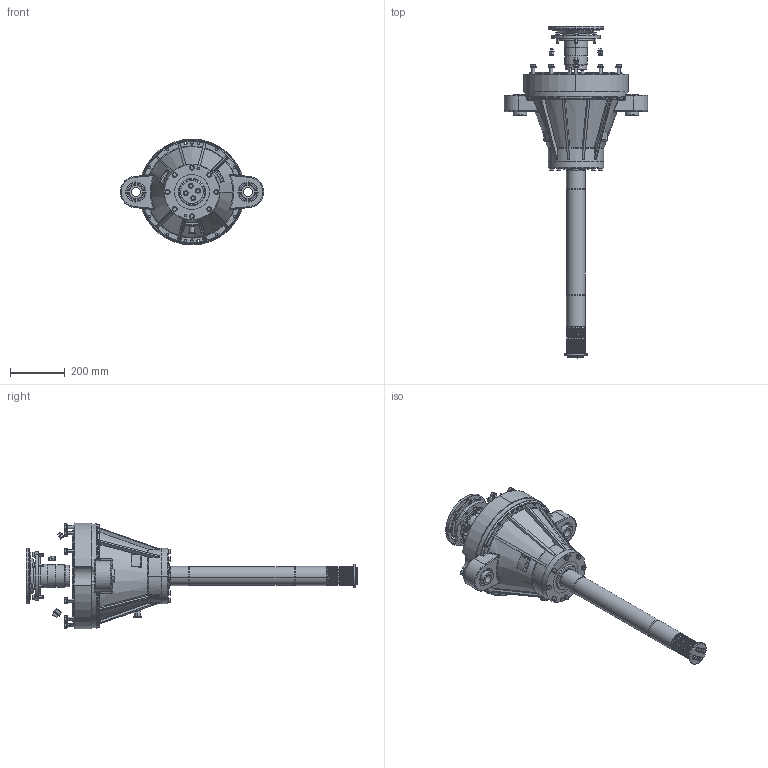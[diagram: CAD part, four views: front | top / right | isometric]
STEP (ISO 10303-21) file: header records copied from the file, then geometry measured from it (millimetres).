
FILE_DESCRIPTION (( 'STEP AP214' ), '1' );
FILE_NAME ('D104E500001.STEP', '2017-05-09T14:22:09', ( 'MikeMihajlovic' ), ( 'Microsoft' ), 'SwSTEP 2.0', 'SolidWorks 2016', '' );
FILE_SCHEMA (( 'AUTOMOTIVE_DESIGN' ));
Length unit declared in the file: inch
Products named in the file (34): D104021_ASM_1; AV313650_19; D104024; D104014__ASM_2; D104020_ASM; D104014C_AF0_2; D104001C_AF0_2; D104014B_AF0_2; D104020_ASM_1; D104014A_AF0_2; D104016_2; D104E500001; OS3_938-45_1; OR2_734X_139_3; D104015; DWL_38X1_2; SRN5000-275_3; HHCSZ_38-16X1_25_21; D104010_2; HHCSZ_43-14X4_50; D104013_2; LWZ_43; SRN5000-300_3; HHCSZ_38-16X1_50_6; D104008_2; HHCSZ_38-24X1_00; D104009_2; LWZ_38_39; D104007; PPSQG_375-18_6; D104021_ASM; PPSQM_375-18_4; D104002C_AF0_2; PPSQG_750-14_3
Assembly tree (89 placements, depth 3):
  D104E500001
    D104020_ASM
      D104020_ASM_1
      D104001C_AF0_2
    D104024
    D104021_ASM
      D104021_ASM_1
      D104002C_AF0_2
    D104007
    D104009_2
    D104008_2
    SRN5000-300_3
    D104013_2
    D104010_2
    SRN5000-275_3  x2
    DWL_38X1_2  x2
    D104015
    OR2_734X_139_3
    OS3_938-45_1  x2
    D104016_2  x2
    D104014__ASM_2  x2
      D104014A_AF0_2
      D104014B_AF0_2
      D104014C_AF0_2
    AV313650_19
    PPSQG_750-14_3
    PPSQM_375-18_4
    PPSQG_375-18_6  x2
    LWZ_38_39  x18
    HHCSZ_38-24X1_00  x4
    HHCSZ_38-16X1_50_6  x8
    LWZ_43  x10
    HHCSZ_43-14X4_50  x10
    HHCSZ_38-16X1_25_21  x6
Bounding box: 524.06 x 1214.33 x 387.35 mm (x, y, z)
Volume: 8534851.3 mm3; surface area: 2004075.7 mm2
Topology: 52 solids, 157 shells, 3080 faces, 8081 edges, 5254 vertices
Faces by surface type: cylinder 1418, plane 747, cone 519, bspline 396
Entity records: 142724 total; most frequent: CARTESIAN_POINT 70292, ORIENTED_EDGE 16018, DIRECTION 13649, EDGE_CURVE 8105, AXIS2_PLACEMENT_3D 5674, VERTEX_POINT 5188, EDGE_LOOP 3318, CIRCLE 3213
